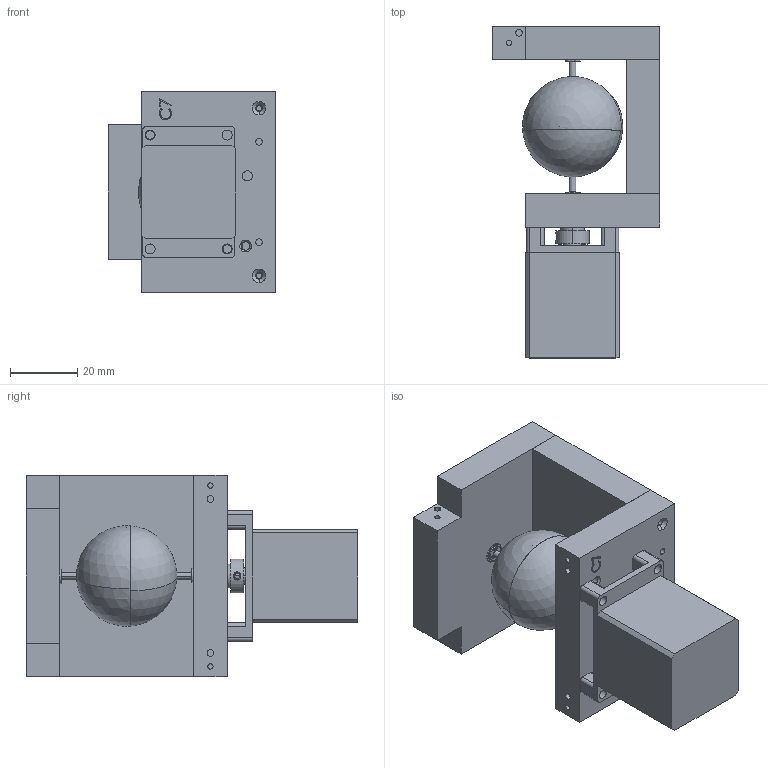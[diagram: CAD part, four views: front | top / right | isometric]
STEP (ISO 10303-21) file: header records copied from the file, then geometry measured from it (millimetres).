
FILE_DESCRIPTION (( 'STEP AP214' ), '1' );
FILE_NAME ('Assieme gruppo Est_piero.STEP', '2016-02-27T11:39:54', ( '' ), ( '' ), 'SwSTEP 2.0', 'SolidWorks 2012', '' );
FILE_SCHEMA (( 'AUTOMOTIVE_DESIGN' ));
Length unit declared in the file: millimetre
Products named in the file (15): alberino semplice; flngia pamoco; C6; C7; C5; C14; ass sfera_motore EST; raccordo motore trascinato; giunto baionetta; Assieme mot Pamoco e flangia; Assieme gruppo Est_piero; C4; seeger espansione d2; instrument ball bearing_68_am_AFBMA 12.1.4.1 - 0020-6 - 8,SI,NC,8_68; motore pamoco serie28
Assembly tree (16 placements, depth 3):
  Assieme gruppo Est_piero
    C7
    C4
    C14
    ass sfera_motore EST
      C5
      C6
      alberino semplice
    instrument ball bearing_68_am_AFBMA 12.1.4.1 - 0020-6 - 8,SI,NC,8_68  x2
    Assieme mot Pamoco e flangia
      flngia pamoco
      motore pamoco serie28
    seeger espansione d2  x2
    giunto baionetta
    raccordo motore trascinato
Bounding box: 50 x 99 x 60 mm (x, y, z)
Volume: 106806 mm3; surface area: 38541.9 mm2
Topology: 14 solids, 14 shells, 533 faces, 1312 edges, 848 vertices
Faces by surface type: cylinder 242, plane 183, cone 44, bspline 32, torus 24, sphere 8
Entity records: 19561 total; most frequent: CARTESIAN_POINT 7243, DIRECTION 2504, ORIENTED_EDGE 2396, EDGE_CURVE 1198, AXIS2_PLACEMENT_3D 953, VERTEX_POINT 779, LINE 598, VECTOR 598
